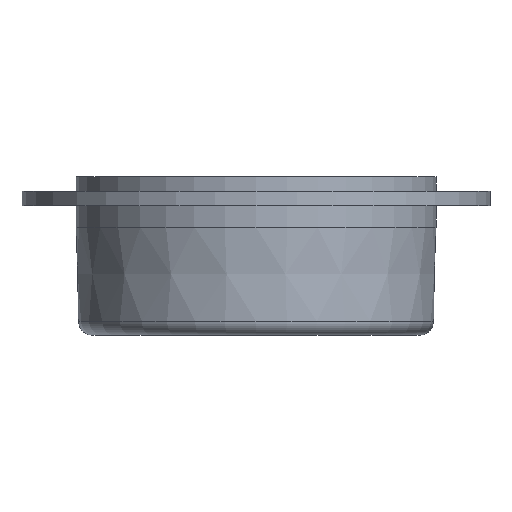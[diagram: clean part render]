
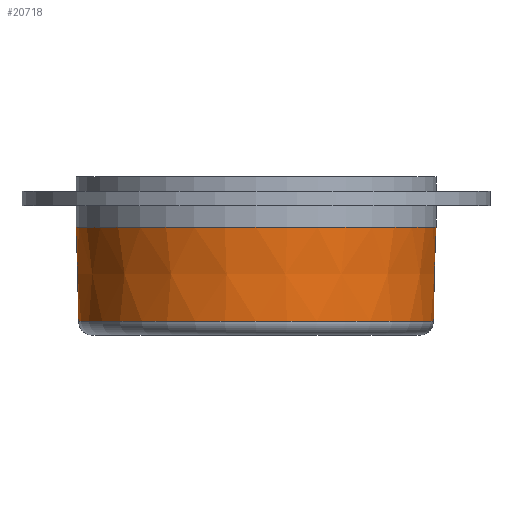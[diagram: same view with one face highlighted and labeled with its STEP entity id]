
A CAD part, left-side view. The second image highlights one B-rep face of the part: STEP entity #20718.
In plain terms, the highlighted conical face has half-angle 1.432 degrees and reference radius 24.625 mm.
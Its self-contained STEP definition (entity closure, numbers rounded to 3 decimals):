
#5787=CONICAL_SURFACE('',#21384,24.625,0.025);
#7284=VERTEX_POINT('',#33306);
#7285=VERTEX_POINT('',#33309);
#7928=CIRCLE('',#21383,24.674);
#7929=CIRCLE('',#21385,25.);
#10246=EDGE_CURVE('',#7284,#7284,#7928,.T.);
#10247=EDGE_CURVE('',#7285,#7285,#7929,.T.);
#15573=ORIENTED_EDGE('',*,*,#10247,.T.);
#15574=ORIENTED_EDGE('',*,*,#10246,.F.);
#18293=EDGE_LOOP('',(#15573));
#18294=EDGE_LOOP('',(#15574));
#19543=FACE_BOUND('',#18293,.T.);
#19544=FACE_BOUND('',#18294,.T.);
#20718=ADVANCED_FACE('',(#19543,#19544),#5787,.T.);
#21383=AXIS2_PLACEMENT_3D('',#33305,#23176,#23177);
#21384=AXIS2_PLACEMENT_3D('',#33307,#23178,#23179);
#21385=AXIS2_PLACEMENT_3D('',#33308,#23180,#23181);
#23176=DIRECTION('',(0.,0.,-1.));
#23177=DIRECTION('',(-24.674,0.,0.));
#23178=DIRECTION('',(0.,0.,1.));
#23179=DIRECTION('',(-24.625,0.,0.));
#23180=DIRECTION('',(0.,0.,-1.));
#23181=DIRECTION('',(-25.,0.,0.));
#33305=CARTESIAN_POINT('',(1.538,0.,1.95));
#33306=CARTESIAN_POINT('',(26.212,0.,1.95));
#33307=CARTESIAN_POINT('',(1.538,0.,0.));
#33308=CARTESIAN_POINT('',(1.538,0.,15.));
#33309=CARTESIAN_POINT('',(26.538,0.,15.));
